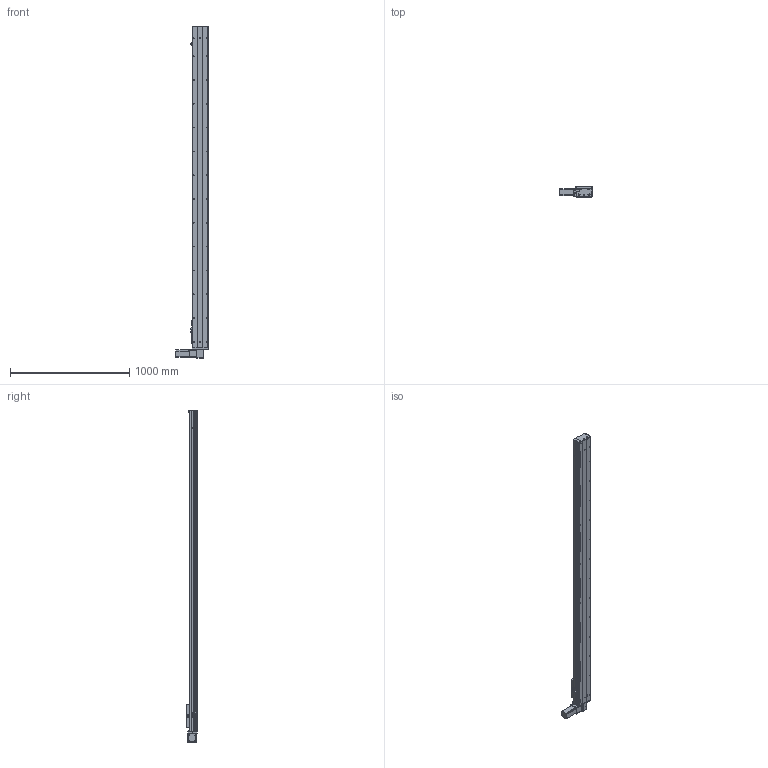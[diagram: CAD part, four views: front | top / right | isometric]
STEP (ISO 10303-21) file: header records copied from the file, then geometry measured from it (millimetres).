
FILE_DESCRIPTION (( 'STEP AP203' ), '1' );
FILE_NAME ('Y135CB-D90-S2400-BD-P400W.STEP', '2020-02-19T06:12:58', ( '微软用户' ), ( '微软中国' ), 'SwSTEP 2.0', 'SolidWorks 2017', '' );
FILE_SCHEMA (( 'CONFIG_CONTROL_DESIGN' ));
Length unit declared in the file: millimetre
Products named in the file (16): 135CB--詩湍-CE; Y100-135俋离換覜ん--; 135CB---遴掛极.-; Y135C-陔俋离換覜結え-; 35CB---喘謫眊楊擘啣; 5C--俋欶; 0B-埴倛裔啣; C-雄赽釱--; 0B-源倛裔啣; Y10B--々湍喘謫眊--666; Y135CB-耜裔; san松下电机400不带刹车----; 0B-薊粣ん眊; 5CB --掛极耜裔啣-; Y135CB-D90-S2400-BD-P400W; C-詩湍揤踡え-陔
Assembly tree (19 placements, depth 2):
  Y135CB-D90-S2400-BD-P400W
    Y135CB-耜裔
    135CB---遴掛极.-
    35CB---喘謫眊楊擘啣
    0B-埴倛裔啣
    0B-源倛裔啣
    san松下电机400不带刹车----
    5CB --掛极耜裔啣-  x2
    C-詩湍揤踡え-陔  x2
    135CB--詩湍-CE
    Y100-135俋离換覜ん--  x3
    Y135C-陔俋离換覜結え-
    5C--俋欶
    C-雄赽釱--
    Y10B--々湍喘謫眊--666
    0B-薊粣ん眊
Bounding box: 272 x 91 x 2788 mm (x, y, z)
Volume: 8022468.1 mm3; surface area: 3132028.6 mm2
Topology: 19 solids, 19 shells, 883 faces, 2392 edges, 1584 vertices
Faces by surface type: cylinder 452, plane 415, cone 16
Entity records: 27420 total; most frequent: DIRECTION 4572, CARTESIAN_POINT 4555, ORIENTED_EDGE 4260, EDGE_CURVE 2130, AXIS2_PLACEMENT_3D 1685, VERTEX_POINT 1412, LINE 1202, VECTOR 1202
